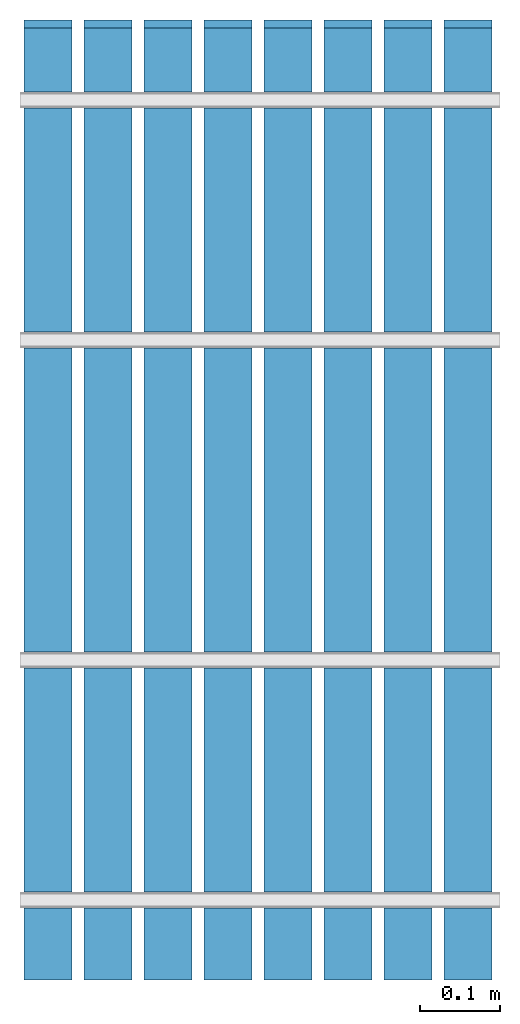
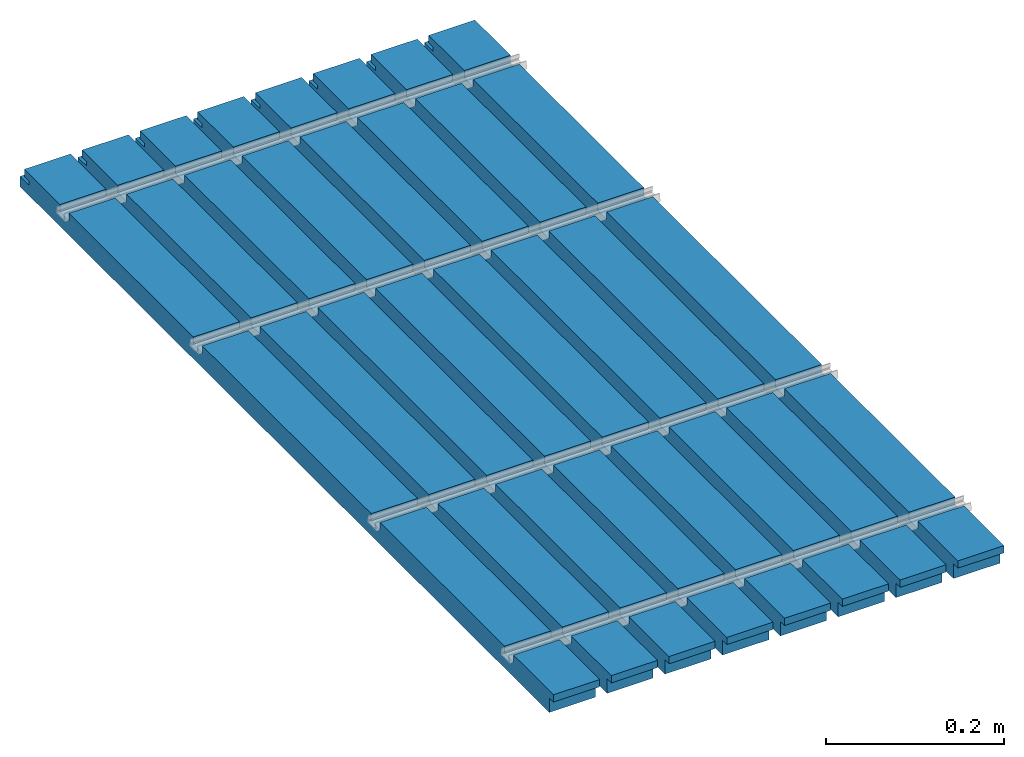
# One storey, part 2 of 2: 8 walls.
"""IFC2X3 building model written with IfcOpenShell, lengths in millimetres."""

from ifc_helpers import new_model, entity, si_unit, converted_unit, money_unit, direction, frame, origin_with_axes, place, context, subcontext, project, spatial, polyline, outline, extrude, boolean, faceted_brep, material, layer, layer_set, layer_usage, type_object, element, save


model = new_model("IFC2X3")

# Units and contexts
model_context = context("Model", 3, precision=1e-05, world=origin_with_axes(), true_north=direction((0.0, 1.0)))
body_context = subcontext(model_context, "Body", "Model", "MODEL_VIEW")
ifc_project = project(units=[si_unit("LENGTHUNIT", "METRE", prefix="MILLI"), si_unit("AREAUNIT", "SQUARE_METRE"), si_unit("VOLUMEUNIT", "CUBIC_METRE"), converted_unit("PLANEANGLEUNIT", "DEGREE", entity("IfcPlaneAngleMeasure", 0.0174532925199), si_unit("PLANEANGLEUNIT", "RADIAN"), dimensions=[0, 0, 0, 0, 0, 0, 0]), si_unit("SOLIDANGLEUNIT", "STERADIAN"), money_unit("AUD"), si_unit("TIMEUNIT", "SECOND"), si_unit("MASSUNIT", "GRAM"), si_unit("THERMODYNAMICTEMPERATUREUNIT", "DEGREE_CELSIUS"), si_unit("LUMINOUSINTENSITYUNIT", "LUMEN")], contexts=[model_context])

# Site, building, storey
site_placement = place(None, origin_with_axes())
site = spatial("IfcSite", under=ifc_project, at=site_placement, Name="Site", CompositionType="ELEMENT")
building_placement = place(site_placement, origin_with_axes())
building = spatial("IfcBuilding", under=site, at=building_placement, Name="Building", CompositionType="ELEMENT")
storey_placement = place(building_placement, origin_with_axes())
storey = spatial("IfcBuildingStorey", under=building, at=storey_placement, Name="GROUND", CompositionType="ELEMENT", Elevation=0.0)

# Walls
ifc_material = material(Name="Timber")
ifc_layer = layer(ifc_material, 60.0, ventilated="UNKNOWN")
ifc_layer_set = layer_set([ifc_layer], Name="Timber 60")
ifc_layer_usage_1 = layer_usage(ifc_layer_set, "AXIS2", "POSITIVE", 0.0)
wall_type = type_object("IfcWallType", Name="Timber 60", PredefinedType="NOTDEFINED")
wall_1_placement = place(storey_placement, frame((592.5, 0.0, 0.0), z_axis=(0.0, 0.0, 1.0), x_axis=(0.0, 1.0, 0.0)))
element("IfcWallStandardCase", 1, at=wall_1_placement, inside=storey, type_object=wall_type, material=ifc_layer_usage_1, Name="WALL-01", context=body_context, shape_type="CSG", body=[
    boolean("DIFFERENCE", boolean("DIFFERENCE", boolean("DIFFERENCE", boolean("DIFFERENCE", boolean("DIFFERENCE", boolean("DIFFERENCE", extrude(outline(polyline([(0.0, 0.0), (1200.0, 0.0), (1200.0, 60.0), (0.0, 60.0), (0.0, 0.0)])), origin_with_axes(), (0.0, 0.0, 1.0), 30.0), faceted_brep([(9.5, 0.0, 20.0), (0.0, 0.0, 20.0), (0.0, 0.0, 0.0), (9.5, 0.0, 0.0), (9.5, 60.0, 20.0), (0.0, 60.0, 20.0), (0.0, 60.0, 0.0), (9.5, 60.0, 0.0)], [[[0, 1, 2, 3]], [[1, 0, 4, 5]], [[1, 5, 6, 2]], [[7, 3, 2, 6]], [[0, 3, 7, 4]], [[4, 7, 6, 5]]])), faceted_brep([(90.0, 0.0, 20.0), (110.0, 0.0, 20.0), (110.0, 0.0, 30.0), (90.0, 0.0, 30.0), (90.0, 60.0, 20.0), (110.0, 60.0, 20.0), (110.0, 60.0, 30.0), (90.0, 60.0, 30.0)], [[[0, 1, 2, 3]], [[1, 0, 4, 5]], [[6, 2, 1, 5]], [[7, 3, 2, 6]], [[0, 3, 7, 4]], [[4, 7, 6, 5]]])), faceted_brep([(390.0, 0.0, 20.0), (410.0, 0.0, 20.0), (410.0, 0.0, 30.0), (390.0, 0.0, 30.0), (390.0, 60.0, 20.0), (410.0, 60.0, 20.0), (410.0, 60.0, 30.0), (390.0, 60.0, 30.0)], [[[0, 1, 2, 3]], [[1, 0, 4, 5]], [[6, 2, 1, 5]], [[7, 3, 2, 6]], [[0, 3, 7, 4]], [[4, 7, 6, 5]]])), faceted_brep([(790.0, 0.0, 20.0), (810.0, 0.0, 20.0), (810.0, 0.0, 30.0), (790.0, 0.0, 30.0), (790.0, 60.0, 20.0), (810.0, 60.0, 20.0), (810.0, 60.0, 30.0), (790.0, 60.0, 30.0)], [[[0, 1, 2, 3]], [[1, 0, 4, 5]], [[6, 2, 1, 5]], [[7, 3, 2, 6]], [[0, 3, 7, 4]], [[4, 7, 6, 5]]])), faceted_brep([(1090.0, 0.0, 20.0), (1110.0, 0.0, 20.0), (1110.0, 0.0, 30.0), (1090.0, 0.0, 30.0), (1090.0, 60.0, 20.0), (1110.0, 60.0, 20.0), (1110.0, 60.0, 30.0), (1090.0, 60.0, 30.0)], [[[0, 1, 2, 3]], [[1, 0, 4, 5]], [[6, 2, 1, 5]], [[7, 3, 2, 6]], [[0, 3, 7, 4]], [[4, 7, 6, 5]]])), faceted_brep([(1180.0, 0.0, 19.5), (1180.0, 0.0, 14.0), (1200.0, 0.0, 14.0), (1200.0, 0.0, 30.0), (1190.0, 0.0, 30.0), (1190.0, 0.0, 19.5), (1180.0, 60.0, 19.5), (1180.0, 60.0, 14.0), (1200.0, 60.0, 14.0), (1200.0, 60.0, 30.0), (1190.0, 60.0, 30.0), (1190.0, 60.0, 19.5)], [[[0, 1, 2, 3, 4, 5]], [[1, 0, 6, 7]], [[8, 2, 1, 7]], [[2, 8, 9, 3]], [[10, 4, 3, 9]], [[5, 4, 10, 11]], [[0, 5, 11, 6]], [[11, 10, 9, 8, 7, 6]]])),
])
ifc_layer_usage_2 = layer_usage(ifc_layer_set, "AXIS2", "POSITIVE", 0.0)
wall_2_placement = place(storey_placement, frame((292.5, 0.0, 0.0), z_axis=(0.0, 0.0, 1.0), x_axis=(0.0, 1.0, 0.0)))
element("IfcWallStandardCase", 2, at=wall_2_placement, inside=storey, type_object=wall_type, material=ifc_layer_usage_2, Name="WALL-01", context=body_context, shape_type="CSG", body=[
    boolean("DIFFERENCE", boolean("DIFFERENCE", boolean("DIFFERENCE", boolean("DIFFERENCE", boolean("DIFFERENCE", boolean("DIFFERENCE", extrude(outline(polyline([(0.0, 0.0), (1200.0, 0.0), (1200.0, 60.0), (0.0, 60.0), (0.0, 0.0)])), origin_with_axes(), (0.0, 0.0, 1.0), 30.0), faceted_brep([(9.5, 0.0, 20.0), (0.0, 0.0, 20.0), (0.0, 0.0, 0.0), (9.5, 0.0, 0.0), (9.5, 60.0, 20.0), (0.0, 60.0, 20.0), (0.0, 60.0, 0.0), (9.5, 60.0, 0.0)], [[[0, 1, 2, 3]], [[1, 0, 4, 5]], [[1, 5, 6, 2]], [[7, 3, 2, 6]], [[0, 3, 7, 4]], [[4, 7, 6, 5]]])), faceted_brep([(90.0, 0.0, 20.0), (110.0, 0.0, 20.0), (110.0, 0.0, 30.0), (90.0, 0.0, 30.0), (90.0, 60.0, 20.0), (110.0, 60.0, 20.0), (110.0, 60.0, 30.0), (90.0, 60.0, 30.0)], [[[0, 1, 2, 3]], [[1, 0, 4, 5]], [[6, 2, 1, 5]], [[7, 3, 2, 6]], [[0, 3, 7, 4]], [[4, 7, 6, 5]]])), faceted_brep([(390.0, 0.0, 20.0), (410.0, 0.0, 20.0), (410.0, 0.0, 30.0), (390.0, 0.0, 30.0), (390.0, 60.0, 20.0), (410.0, 60.0, 20.0), (410.0, 60.0, 30.0), (390.0, 60.0, 30.0)], [[[0, 1, 2, 3]], [[1, 0, 4, 5]], [[6, 2, 1, 5]], [[7, 3, 2, 6]], [[0, 3, 7, 4]], [[4, 7, 6, 5]]])), faceted_brep([(790.0, 0.0, 20.0), (810.0, 0.0, 20.0), (810.0, 0.0, 30.0), (790.0, 0.0, 30.0), (790.0, 60.0, 20.0), (810.0, 60.0, 20.0), (810.0, 60.0, 30.0), (790.0, 60.0, 30.0)], [[[0, 1, 2, 3]], [[1, 0, 4, 5]], [[6, 2, 1, 5]], [[7, 3, 2, 6]], [[0, 3, 7, 4]], [[4, 7, 6, 5]]])), faceted_brep([(1090.0, 0.0, 20.0), (1110.0, 0.0, 20.0), (1110.0, 0.0, 30.0), (1090.0, 0.0, 30.0), (1090.0, 60.0, 20.0), (1110.0, 60.0, 20.0), (1110.0, 60.0, 30.0), (1090.0, 60.0, 30.0)], [[[0, 1, 2, 3]], [[1, 0, 4, 5]], [[6, 2, 1, 5]], [[7, 3, 2, 6]], [[0, 3, 7, 4]], [[4, 7, 6, 5]]])), faceted_brep([(1180.0, 0.0, 19.5), (1180.0, 0.0, 14.0), (1200.0, 0.0, 14.0), (1200.0, 0.0, 30.0), (1190.0, 0.0, 30.0), (1190.0, 0.0, 19.5), (1180.0, 60.0, 19.5), (1180.0, 60.0, 14.0), (1200.0, 60.0, 14.0), (1200.0, 60.0, 30.0), (1190.0, 60.0, 30.0), (1190.0, 60.0, 19.5)], [[[0, 1, 2, 3, 4, 5]], [[1, 0, 6, 7]], [[8, 2, 1, 7]], [[2, 8, 9, 3]], [[10, 4, 3, 9]], [[5, 4, 10, 11]], [[0, 5, 11, 6]], [[11, 10, 9, 8, 7, 6]]])),
])
ifc_layer_usage_3 = layer_usage(ifc_layer_set, "AXIS2", "POSITIVE", 0.0)
wall_3_placement = place(storey_placement, frame((367.5, 0.0, 0.0), z_axis=(0.0, 0.0, 1.0), x_axis=(0.0, 1.0, 0.0)))
element("IfcWallStandardCase", 3, at=wall_3_placement, inside=storey, type_object=wall_type, material=ifc_layer_usage_3, Name="WALL-01", context=body_context, shape_type="CSG", body=[
    boolean("DIFFERENCE", boolean("DIFFERENCE", boolean("DIFFERENCE", boolean("DIFFERENCE", boolean("DIFFERENCE", boolean("DIFFERENCE", extrude(outline(polyline([(0.0, 0.0), (1200.0, 0.0), (1200.0, 60.0), (0.0, 60.0), (0.0, 0.0)])), origin_with_axes(), (0.0, 0.0, 1.0), 30.0), faceted_brep([(9.5, 0.0, 20.0), (0.0, 0.0, 20.0), (0.0, 0.0, 0.0), (9.5, 0.0, 0.0), (9.5, 60.0, 20.0), (0.0, 60.0, 20.0), (0.0, 60.0, 0.0), (9.5, 60.0, 0.0)], [[[0, 1, 2, 3]], [[1, 0, 4, 5]], [[1, 5, 6, 2]], [[7, 3, 2, 6]], [[0, 3, 7, 4]], [[4, 7, 6, 5]]])), faceted_brep([(90.0, 0.0, 20.0), (110.0, 0.0, 20.0), (110.0, 0.0, 30.0), (90.0, 0.0, 30.0), (90.0, 60.0, 20.0), (110.0, 60.0, 20.0), (110.0, 60.0, 30.0), (90.0, 60.0, 30.0)], [[[0, 1, 2, 3]], [[1, 0, 4, 5]], [[6, 2, 1, 5]], [[7, 3, 2, 6]], [[0, 3, 7, 4]], [[4, 7, 6, 5]]])), faceted_brep([(390.0, 0.0, 20.0), (410.0, 0.0, 20.0), (410.0, 0.0, 30.0), (390.0, 0.0, 30.0), (390.0, 60.0, 20.0), (410.0, 60.0, 20.0), (410.0, 60.0, 30.0), (390.0, 60.0, 30.0)], [[[0, 1, 2, 3]], [[1, 0, 4, 5]], [[6, 2, 1, 5]], [[7, 3, 2, 6]], [[0, 3, 7, 4]], [[4, 7, 6, 5]]])), faceted_brep([(790.0, 0.0, 20.0), (810.0, 0.0, 20.0), (810.0, 0.0, 30.0), (790.0, 0.0, 30.0), (790.0, 60.0, 20.0), (810.0, 60.0, 20.0), (810.0, 60.0, 30.0), (790.0, 60.0, 30.0)], [[[0, 1, 2, 3]], [[1, 0, 4, 5]], [[6, 2, 1, 5]], [[7, 3, 2, 6]], [[0, 3, 7, 4]], [[4, 7, 6, 5]]])), faceted_brep([(1090.0, 0.0, 20.0), (1110.0, 0.0, 20.0), (1110.0, 0.0, 30.0), (1090.0, 0.0, 30.0), (1090.0, 60.0, 20.0), (1110.0, 60.0, 20.0), (1110.0, 60.0, 30.0), (1090.0, 60.0, 30.0)], [[[0, 1, 2, 3]], [[1, 0, 4, 5]], [[6, 2, 1, 5]], [[7, 3, 2, 6]], [[0, 3, 7, 4]], [[4, 7, 6, 5]]])), faceted_brep([(1180.0, 0.0, 19.5), (1180.0, 0.0, 14.0), (1200.0, 0.0, 14.0), (1200.0, 0.0, 30.0), (1190.0, 0.0, 30.0), (1190.0, 0.0, 19.5), (1180.0, 60.0, 19.5), (1180.0, 60.0, 14.0), (1200.0, 60.0, 14.0), (1200.0, 60.0, 30.0), (1190.0, 60.0, 30.0), (1190.0, 60.0, 19.5)], [[[0, 1, 2, 3, 4, 5]], [[1, 0, 6, 7]], [[8, 2, 1, 7]], [[2, 8, 9, 3]], [[10, 4, 3, 9]], [[5, 4, 10, 11]], [[0, 5, 11, 6]], [[11, 10, 9, 8, 7, 6]]])),
])
ifc_layer_usage_4 = layer_usage(ifc_layer_set, "AXIS2", "POSITIVE", 0.0)
wall_4_placement = place(storey_placement, frame((67.5, 0.0, 0.0), z_axis=(0.0, 0.0, 1.0), x_axis=(0.0, 1.0, 0.0)))
element("IfcWallStandardCase", 4, at=wall_4_placement, inside=storey, type_object=wall_type, material=ifc_layer_usage_4, Name="WALL-01", context=body_context, shape_type="CSG", body=[
    boolean("DIFFERENCE", boolean("DIFFERENCE", boolean("DIFFERENCE", boolean("DIFFERENCE", boolean("DIFFERENCE", boolean("DIFFERENCE", extrude(outline(polyline([(0.0, 0.0), (1200.0, 0.0), (1200.0, 60.0), (0.0, 60.0), (0.0, 0.0)])), origin_with_axes(), (0.0, 0.0, 1.0), 30.0), faceted_brep([(9.5, 0.0, 20.0), (0.0, 0.0, 20.0), (0.0, 0.0, 0.0), (9.5, 0.0, 0.0), (9.5, 60.0, 20.0), (0.0, 60.0, 20.0), (0.0, 60.0, 0.0), (9.5, 60.0, 0.0)], [[[0, 1, 2, 3]], [[1, 0, 4, 5]], [[1, 5, 6, 2]], [[7, 3, 2, 6]], [[0, 3, 7, 4]], [[4, 7, 6, 5]]])), faceted_brep([(90.0, 0.0, 20.0), (110.0, 0.0, 20.0), (110.0, 0.0, 30.0), (90.0, 0.0, 30.0), (90.0, 60.0, 20.0), (110.0, 60.0, 20.0), (110.0, 60.0, 30.0), (90.0, 60.0, 30.0)], [[[0, 1, 2, 3]], [[1, 0, 4, 5]], [[6, 2, 1, 5]], [[7, 3, 2, 6]], [[0, 3, 7, 4]], [[4, 7, 6, 5]]])), faceted_brep([(390.0, 0.0, 20.0), (410.0, 0.0, 20.0), (410.0, 0.0, 30.0), (390.0, 0.0, 30.0), (390.0, 60.0, 20.0), (410.0, 60.0, 20.0), (410.0, 60.0, 30.0), (390.0, 60.0, 30.0)], [[[0, 1, 2, 3]], [[1, 0, 4, 5]], [[6, 2, 1, 5]], [[7, 3, 2, 6]], [[0, 3, 7, 4]], [[4, 7, 6, 5]]])), faceted_brep([(790.0, 0.0, 20.0), (810.0, 0.0, 20.0), (810.0, 0.0, 30.0), (790.0, 0.0, 30.0), (790.0, 60.0, 20.0), (810.0, 60.0, 20.0), (810.0, 60.0, 30.0), (790.0, 60.0, 30.0)], [[[0, 1, 2, 3]], [[1, 0, 4, 5]], [[6, 2, 1, 5]], [[7, 3, 2, 6]], [[0, 3, 7, 4]], [[4, 7, 6, 5]]])), faceted_brep([(1090.0, 0.0, 20.0), (1110.0, 0.0, 20.0), (1110.0, 0.0, 30.0), (1090.0, 0.0, 30.0), (1090.0, 60.0, 20.0), (1110.0, 60.0, 20.0), (1110.0, 60.0, 30.0), (1090.0, 60.0, 30.0)], [[[0, 1, 2, 3]], [[1, 0, 4, 5]], [[6, 2, 1, 5]], [[7, 3, 2, 6]], [[0, 3, 7, 4]], [[4, 7, 6, 5]]])), faceted_brep([(1180.0, 0.0, 19.5), (1180.0, 0.0, 14.0), (1200.0, 0.0, 14.0), (1200.0, 0.0, 30.0), (1190.0, 0.0, 30.0), (1190.0, 0.0, 19.5), (1180.0, 60.0, 19.5), (1180.0, 60.0, 14.0), (1200.0, 60.0, 14.0), (1200.0, 60.0, 30.0), (1190.0, 60.0, 30.0), (1190.0, 60.0, 19.5)], [[[0, 1, 2, 3, 4, 5]], [[1, 0, 6, 7]], [[8, 2, 1, 7]], [[2, 8, 9, 3]], [[10, 4, 3, 9]], [[5, 4, 10, 11]], [[0, 5, 11, 6]], [[11, 10, 9, 8, 7, 6]]])),
])
ifc_layer_usage_5 = layer_usage(ifc_layer_set, "AXIS2", "POSITIVE", 0.0)
wall_5_placement = place(storey_placement, frame((142.5, 0.0, 0.0), z_axis=(0.0, 0.0, 1.0), x_axis=(0.0, 1.0, 0.0)))
element("IfcWallStandardCase", 5, at=wall_5_placement, inside=storey, type_object=wall_type, material=ifc_layer_usage_5, Name="WALL-01", context=body_context, shape_type="CSG", body=[
    boolean("DIFFERENCE", boolean("DIFFERENCE", boolean("DIFFERENCE", boolean("DIFFERENCE", boolean("DIFFERENCE", boolean("DIFFERENCE", extrude(outline(polyline([(0.0, 0.0), (1200.0, 0.0), (1200.0, 60.0), (0.0, 60.0), (0.0, 0.0)])), origin_with_axes(), (0.0, 0.0, 1.0), 30.0), faceted_brep([(9.5, 0.0, 20.0), (0.0, 0.0, 20.0), (0.0, 0.0, 0.0), (9.5, 0.0, 0.0), (9.5, 60.0, 20.0), (0.0, 60.0, 20.0), (0.0, 60.0, 0.0), (9.5, 60.0, 0.0)], [[[0, 1, 2, 3]], [[1, 0, 4, 5]], [[1, 5, 6, 2]], [[7, 3, 2, 6]], [[0, 3, 7, 4]], [[4, 7, 6, 5]]])), faceted_brep([(90.0, 0.0, 20.0), (110.0, 0.0, 20.0), (110.0, 0.0, 30.0), (90.0, 0.0, 30.0), (90.0, 60.0, 20.0), (110.0, 60.0, 20.0), (110.0, 60.0, 30.0), (90.0, 60.0, 30.0)], [[[0, 1, 2, 3]], [[1, 0, 4, 5]], [[6, 2, 1, 5]], [[7, 3, 2, 6]], [[0, 3, 7, 4]], [[4, 7, 6, 5]]])), faceted_brep([(390.0, 0.0, 20.0), (410.0, 0.0, 20.0), (410.0, 0.0, 30.0), (390.0, 0.0, 30.0), (390.0, 60.0, 20.0), (410.0, 60.0, 20.0), (410.0, 60.0, 30.0), (390.0, 60.0, 30.0)], [[[0, 1, 2, 3]], [[1, 0, 4, 5]], [[6, 2, 1, 5]], [[7, 3, 2, 6]], [[0, 3, 7, 4]], [[4, 7, 6, 5]]])), faceted_brep([(790.0, 0.0, 20.0), (810.0, 0.0, 20.0), (810.0, 0.0, 30.0), (790.0, 0.0, 30.0), (790.0, 60.0, 20.0), (810.0, 60.0, 20.0), (810.0, 60.0, 30.0), (790.0, 60.0, 30.0)], [[[0, 1, 2, 3]], [[1, 0, 4, 5]], [[6, 2, 1, 5]], [[7, 3, 2, 6]], [[0, 3, 7, 4]], [[4, 7, 6, 5]]])), faceted_brep([(1090.0, 0.0, 20.0), (1110.0, 0.0, 20.0), (1110.0, 0.0, 30.0), (1090.0, 0.0, 30.0), (1090.0, 60.0, 20.0), (1110.0, 60.0, 20.0), (1110.0, 60.0, 30.0), (1090.0, 60.0, 30.0)], [[[0, 1, 2, 3]], [[1, 0, 4, 5]], [[6, 2, 1, 5]], [[7, 3, 2, 6]], [[0, 3, 7, 4]], [[4, 7, 6, 5]]])), faceted_brep([(1180.0, 0.0, 19.5), (1180.0, 0.0, 14.0), (1200.0, 0.0, 14.0), (1200.0, 0.0, 30.0), (1190.0, 0.0, 30.0), (1190.0, 0.0, 19.5), (1180.0, 60.0, 19.5), (1180.0, 60.0, 14.0), (1200.0, 60.0, 14.0), (1200.0, 60.0, 30.0), (1190.0, 60.0, 30.0), (1190.0, 60.0, 19.5)], [[[0, 1, 2, 3, 4, 5]], [[1, 0, 6, 7]], [[8, 2, 1, 7]], [[2, 8, 9, 3]], [[10, 4, 3, 9]], [[5, 4, 10, 11]], [[0, 5, 11, 6]], [[11, 10, 9, 8, 7, 6]]])),
])
ifc_layer_usage_6 = layer_usage(ifc_layer_set, "AXIS2", "POSITIVE", 0.0)
wall_6_placement = place(storey_placement, frame((217.5, 0.0, 0.0), z_axis=(0.0, 0.0, 1.0), x_axis=(0.0, 1.0, 0.0)))
element("IfcWallStandardCase", 6, at=wall_6_placement, inside=storey, type_object=wall_type, material=ifc_layer_usage_6, Name="WALL-01", context=body_context, shape_type="CSG", body=[
    boolean("DIFFERENCE", boolean("DIFFERENCE", boolean("DIFFERENCE", boolean("DIFFERENCE", boolean("DIFFERENCE", boolean("DIFFERENCE", extrude(outline(polyline([(0.0, 0.0), (1200.0, 0.0), (1200.0, 60.0), (0.0, 60.0), (0.0, 0.0)])), origin_with_axes(), (0.0, 0.0, 1.0), 30.0), faceted_brep([(9.5, 0.0, 20.0), (0.0, 0.0, 20.0), (0.0, 0.0, 0.0), (9.5, 0.0, 0.0), (9.5, 60.0, 20.0), (0.0, 60.0, 20.0), (0.0, 60.0, 0.0), (9.5, 60.0, 0.0)], [[[0, 1, 2, 3]], [[1, 0, 4, 5]], [[1, 5, 6, 2]], [[7, 3, 2, 6]], [[0, 3, 7, 4]], [[4, 7, 6, 5]]])), faceted_brep([(90.0, 0.0, 20.0), (110.0, 0.0, 20.0), (110.0, 0.0, 30.0), (90.0, 0.0, 30.0), (90.0, 60.0, 20.0), (110.0, 60.0, 20.0), (110.0, 60.0, 30.0), (90.0, 60.0, 30.0)], [[[0, 1, 2, 3]], [[1, 0, 4, 5]], [[6, 2, 1, 5]], [[7, 3, 2, 6]], [[0, 3, 7, 4]], [[4, 7, 6, 5]]])), faceted_brep([(390.0, 0.0, 20.0), (410.0, 0.0, 20.0), (410.0, 0.0, 30.0), (390.0, 0.0, 30.0), (390.0, 60.0, 20.0), (410.0, 60.0, 20.0), (410.0, 60.0, 30.0), (390.0, 60.0, 30.0)], [[[0, 1, 2, 3]], [[1, 0, 4, 5]], [[6, 2, 1, 5]], [[7, 3, 2, 6]], [[0, 3, 7, 4]], [[4, 7, 6, 5]]])), faceted_brep([(790.0, 0.0, 20.0), (810.0, 0.0, 20.0), (810.0, 0.0, 30.0), (790.0, 0.0, 30.0), (790.0, 60.0, 20.0), (810.0, 60.0, 20.0), (810.0, 60.0, 30.0), (790.0, 60.0, 30.0)], [[[0, 1, 2, 3]], [[1, 0, 4, 5]], [[6, 2, 1, 5]], [[7, 3, 2, 6]], [[0, 3, 7, 4]], [[4, 7, 6, 5]]])), faceted_brep([(1090.0, 0.0, 20.0), (1110.0, 0.0, 20.0), (1110.0, 0.0, 30.0), (1090.0, 0.0, 30.0), (1090.0, 60.0, 20.0), (1110.0, 60.0, 20.0), (1110.0, 60.0, 30.0), (1090.0, 60.0, 30.0)], [[[0, 1, 2, 3]], [[1, 0, 4, 5]], [[6, 2, 1, 5]], [[7, 3, 2, 6]], [[0, 3, 7, 4]], [[4, 7, 6, 5]]])), faceted_brep([(1180.0, 0.0, 19.5), (1180.0, 0.0, 14.0), (1200.0, 0.0, 14.0), (1200.0, 0.0, 30.0), (1190.0, 0.0, 30.0), (1190.0, 0.0, 19.5), (1180.0, 60.0, 19.5), (1180.0, 60.0, 14.0), (1200.0, 60.0, 14.0), (1200.0, 60.0, 30.0), (1190.0, 60.0, 30.0), (1190.0, 60.0, 19.5)], [[[0, 1, 2, 3, 4, 5]], [[1, 0, 6, 7]], [[8, 2, 1, 7]], [[2, 8, 9, 3]], [[10, 4, 3, 9]], [[5, 4, 10, 11]], [[0, 5, 11, 6]], [[11, 10, 9, 8, 7, 6]]])),
])
ifc_layer_usage_7 = layer_usage(ifc_layer_set, "AXIS2", "POSITIVE", 0.0)
wall_7_placement = place(storey_placement, frame((517.5, 0.0, 0.0), z_axis=(0.0, 0.0, 1.0), x_axis=(0.0, 1.0, 0.0)))
element("IfcWallStandardCase", 7, at=wall_7_placement, inside=storey, type_object=wall_type, material=ifc_layer_usage_7, Name="WALL-01", context=body_context, shape_type="CSG", body=[
    boolean("DIFFERENCE", boolean("DIFFERENCE", boolean("DIFFERENCE", boolean("DIFFERENCE", boolean("DIFFERENCE", boolean("DIFFERENCE", extrude(outline(polyline([(0.0, 0.0), (1200.0, 0.0), (1200.0, 60.0), (0.0, 60.0), (0.0, 0.0)])), origin_with_axes(), (0.0, 0.0, 1.0), 30.0), faceted_brep([(9.5, 0.0, 20.0), (0.0, 0.0, 20.0), (0.0, 0.0, 0.0), (9.5, 0.0, 0.0), (9.5, 60.0, 20.0), (0.0, 60.0, 20.0), (0.0, 60.0, 0.0), (9.5, 60.0, 0.0)], [[[0, 1, 2, 3]], [[1, 0, 4, 5]], [[1, 5, 6, 2]], [[7, 3, 2, 6]], [[0, 3, 7, 4]], [[4, 7, 6, 5]]])), faceted_brep([(90.0, 0.0, 20.0), (110.0, 0.0, 20.0), (110.0, 0.0, 30.0), (90.0, 0.0, 30.0), (90.0, 60.0, 20.0), (110.0, 60.0, 20.0), (110.0, 60.0, 30.0), (90.0, 60.0, 30.0)], [[[0, 1, 2, 3]], [[1, 0, 4, 5]], [[6, 2, 1, 5]], [[7, 3, 2, 6]], [[0, 3, 7, 4]], [[4, 7, 6, 5]]])), faceted_brep([(390.0, 0.0, 20.0), (410.0, 0.0, 20.0), (410.0, 0.0, 30.0), (390.0, 0.0, 30.0), (390.0, 60.0, 20.0), (410.0, 60.0, 20.0), (410.0, 60.0, 30.0), (390.0, 60.0, 30.0)], [[[0, 1, 2, 3]], [[1, 0, 4, 5]], [[6, 2, 1, 5]], [[7, 3, 2, 6]], [[0, 3, 7, 4]], [[4, 7, 6, 5]]])), faceted_brep([(790.0, 0.0, 20.0), (810.0, 0.0, 20.0), (810.0, 0.0, 30.0), (790.0, 0.0, 30.0), (790.0, 60.0, 20.0), (810.0, 60.0, 20.0), (810.0, 60.0, 30.0), (790.0, 60.0, 30.0)], [[[0, 1, 2, 3]], [[1, 0, 4, 5]], [[6, 2, 1, 5]], [[7, 3, 2, 6]], [[0, 3, 7, 4]], [[4, 7, 6, 5]]])), faceted_brep([(1090.0, 0.0, 20.0), (1110.0, 0.0, 20.0), (1110.0, 0.0, 30.0), (1090.0, 0.0, 30.0), (1090.0, 60.0, 20.0), (1110.0, 60.0, 20.0), (1110.0, 60.0, 30.0), (1090.0, 60.0, 30.0)], [[[0, 1, 2, 3]], [[1, 0, 4, 5]], [[6, 2, 1, 5]], [[7, 3, 2, 6]], [[0, 3, 7, 4]], [[4, 7, 6, 5]]])), faceted_brep([(1180.0, 0.0, 19.5), (1180.0, 0.0, 14.0), (1200.0, 0.0, 14.0), (1200.0, 0.0, 30.0), (1190.0, 0.0, 30.0), (1190.0, 0.0, 19.5), (1180.0, 60.0, 19.5), (1180.0, 60.0, 14.0), (1200.0, 60.0, 14.0), (1200.0, 60.0, 30.0), (1190.0, 60.0, 30.0), (1190.0, 60.0, 19.5)], [[[0, 1, 2, 3, 4, 5]], [[1, 0, 6, 7]], [[8, 2, 1, 7]], [[2, 8, 9, 3]], [[10, 4, 3, 9]], [[5, 4, 10, 11]], [[0, 5, 11, 6]], [[11, 10, 9, 8, 7, 6]]])),
])
ifc_layer_usage_8 = layer_usage(ifc_layer_set, "AXIS2", "POSITIVE", 0.0)
wall_8_placement = place(storey_placement, frame((442.5, 0.0, 0.0), z_axis=(0.0, 0.0, 1.0), x_axis=(0.0, 1.0, 0.0)))
element("IfcWallStandardCase", 8, at=wall_8_placement, inside=storey, type_object=wall_type, material=ifc_layer_usage_8, Name="WALL-01", context=body_context, shape_type="CSG", body=[
    boolean("DIFFERENCE", boolean("DIFFERENCE", boolean("DIFFERENCE", boolean("DIFFERENCE", boolean("DIFFERENCE", boolean("DIFFERENCE", extrude(outline(polyline([(0.0, 0.0), (1200.0, 0.0), (1200.0, 60.0), (0.0, 60.0), (0.0, 0.0)])), origin_with_axes(), (0.0, 0.0, 1.0), 30.0), faceted_brep([(9.5, 0.0, 20.0), (0.0, 0.0, 20.0), (0.0, 0.0, 0.0), (9.5, 0.0, 0.0), (9.5, 60.0, 20.0), (0.0, 60.0, 20.0), (0.0, 60.0, 0.0), (9.5, 60.0, 0.0)], [[[0, 1, 2, 3]], [[1, 0, 4, 5]], [[1, 5, 6, 2]], [[7, 3, 2, 6]], [[0, 3, 7, 4]], [[4, 7, 6, 5]]])), faceted_brep([(90.0, 0.0, 20.0), (110.0, 0.0, 20.0), (110.0, 0.0, 30.0), (90.0, 0.0, 30.0), (90.0, 60.0, 20.0), (110.0, 60.0, 20.0), (110.0, 60.0, 30.0), (90.0, 60.0, 30.0)], [[[0, 1, 2, 3]], [[1, 0, 4, 5]], [[6, 2, 1, 5]], [[7, 3, 2, 6]], [[0, 3, 7, 4]], [[4, 7, 6, 5]]])), faceted_brep([(390.0, 0.0, 20.0), (410.0, 0.0, 20.0), (410.0, 0.0, 30.0), (390.0, 0.0, 30.0), (390.0, 60.0, 20.0), (410.0, 60.0, 20.0), (410.0, 60.0, 30.0), (390.0, 60.0, 30.0)], [[[0, 1, 2, 3]], [[1, 0, 4, 5]], [[6, 2, 1, 5]], [[7, 3, 2, 6]], [[0, 3, 7, 4]], [[4, 7, 6, 5]]])), faceted_brep([(790.0, 0.0, 20.0), (810.0, 0.0, 20.0), (810.0, 0.0, 30.0), (790.0, 0.0, 30.0), (790.0, 60.0, 20.0), (810.0, 60.0, 20.0), (810.0, 60.0, 30.0), (790.0, 60.0, 30.0)], [[[0, 1, 2, 3]], [[1, 0, 4, 5]], [[6, 2, 1, 5]], [[7, 3, 2, 6]], [[0, 3, 7, 4]], [[4, 7, 6, 5]]])), faceted_brep([(1090.0, 0.0, 20.0), (1110.0, 0.0, 20.0), (1110.0, 0.0, 30.0), (1090.0, 0.0, 30.0), (1090.0, 60.0, 20.0), (1110.0, 60.0, 20.0), (1110.0, 60.0, 30.0), (1090.0, 60.0, 30.0)], [[[0, 1, 2, 3]], [[1, 0, 4, 5]], [[6, 2, 1, 5]], [[7, 3, 2, 6]], [[0, 3, 7, 4]], [[4, 7, 6, 5]]])), faceted_brep([(1180.0, 0.0, 19.5), (1180.0, 0.0, 14.0), (1200.0, 0.0, 14.0), (1200.0, 0.0, 30.0), (1190.0, 0.0, 30.0), (1190.0, 0.0, 19.5), (1180.0, 60.0, 19.5), (1180.0, 60.0, 14.0), (1200.0, 60.0, 14.0), (1200.0, 60.0, 30.0), (1190.0, 60.0, 30.0), (1190.0, 60.0, 19.5)], [[[0, 1, 2, 3, 4, 5]], [[1, 0, 6, 7]], [[8, 2, 1, 7]], [[2, 8, 9, 3]], [[10, 4, 3, 9]], [[5, 4, 10, 11]], [[0, 5, 11, 6]], [[11, 10, 9, 8, 7, 6]]])),
])

save(model, "model.ifc")
